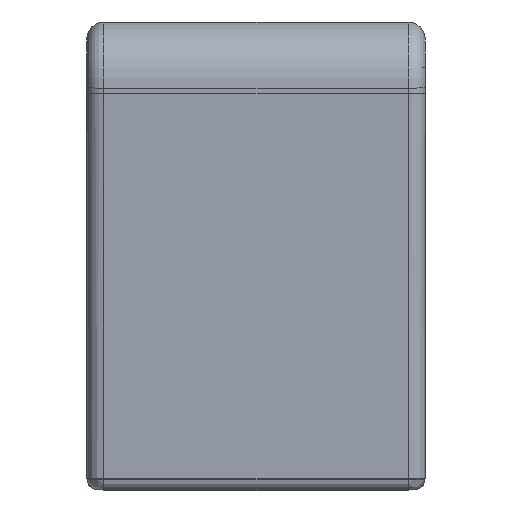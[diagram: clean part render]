
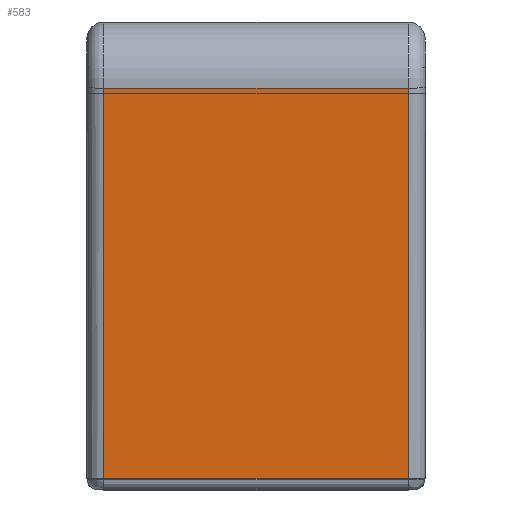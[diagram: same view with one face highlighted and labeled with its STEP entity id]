
A CAD part, left-side view. The second image highlights one B-rep face of the part: STEP entity #583.
In plain terms, the highlighted planar face has unit normal (-0.998, 0, -0.067).
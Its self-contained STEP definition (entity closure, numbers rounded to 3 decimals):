
#236 = EDGE_CURVE ( 'NONE', #3993, #3992, #791, .T. ) ;
#237 = EDGE_CURVE ( 'NONE', #3992, #3998, #805, .T. ) ;
#238 = EDGE_CURVE ( 'NONE', #3998, #4004, #908, .T. ) ;
#239 = EDGE_CURVE ( 'NONE', #3993, #4004, #5128, .T. ) ;
#583 = ADVANCED_FACE ( 'NONE', ( #3600 ), #3395, .T. ) ;
#791 = LINE ( 'NONE', #4384, #798 ) ;
#798 = VECTOR ( 'NONE', #4385, 1000. ) ;
#805 = LINE ( 'NONE', #4386, #833 ) ;
#833 = VECTOR ( 'NONE', #4387, 1000. ) ;
#908 = LINE ( 'NONE', #4388, #5129 ) ;
#1292 = ORIENTED_EDGE ( 'NONE', *, *, #236, .T. ) ;
#1293 = ORIENTED_EDGE ( 'NONE', *, *, #237, .T. ) ;
#1294 = ORIENTED_EDGE ( 'NONE', *, *, #238, .T. ) ;
#1295 = ORIENTED_EDGE ( 'NONE', *, *, #239, .F. ) ;
#1428 = EDGE_LOOP ( 'NONE', ( #1292, #1293, #1294, #1295 ) ) ;
#2988 = CARTESIAN_POINT ( 'NONE',  ( -568.063, 13.5, -6.067 ) ) ;
#2990 = CARTESIAN_POINT ( 'NONE',  ( -570.388, 13.5, 28.632 ) ) ;
#3000 = CARTESIAN_POINT ( 'NONE',  ( -568.063, -13.5, -6.067 ) ) ;
#3012 = CARTESIAN_POINT ( 'NONE',  ( -570.388, -13.5, 28.632 ) ) ;
#3395 = PLANE ( 'NONE',  #3816 ) ;
#3396 = CARTESIAN_POINT ( 'NONE',  ( -568., 15., -7. ) ) ;
#3397 = DIRECTION ( 'NONE',  ( -0.998, 0., -0.067 ) ) ;
#3398 = DIRECTION ( 'NONE',  ( -0.067, 0., 0.998 ) ) ;
#3600 = FACE_OUTER_BOUND ( 'NONE', #1428, .T. ) ;
#3816 = AXIS2_PLACEMENT_3D ( 'NONE', #3396, #3397, #3398 ) ;
#3992 = VERTEX_POINT ( 'NONE', #2988 ) ;
#3993 = VERTEX_POINT ( 'NONE', #2990 ) ;
#3998 = VERTEX_POINT ( 'NONE', #3000 ) ;
#4004 = VERTEX_POINT ( 'NONE', #3012 ) ;
#4384 = CARTESIAN_POINT ( 'NONE',  ( -568., 13.5, -7. ) ) ;
#4385 = DIRECTION ( 'NONE',  ( 0.067, 0., -0.998 ) ) ;
#4386 = CARTESIAN_POINT ( 'NONE',  ( -568.063, 15., -6.067 ) ) ;
#4387 = DIRECTION ( 'NONE',  ( 0., -1., 0. ) ) ;
#4388 = CARTESIAN_POINT ( 'NONE',  ( -570.388, -13.5, 28.632 ) ) ;
#4389 = DIRECTION ( 'NONE',  ( -0.067, 0., 0.998 ) ) ;
#4390 = CARTESIAN_POINT ( 'NONE',  ( -570.388, 15., 28.632 ) ) ;
#4391 = DIRECTION ( 'NONE',  ( 0., -1., 0. ) ) ;
#5127 = VECTOR ( 'NONE', #4391, 1000. ) ;
#5128 = LINE ( 'NONE', #4390, #5127 ) ;
#5129 = VECTOR ( 'NONE', #4389, 1000. ) ;
